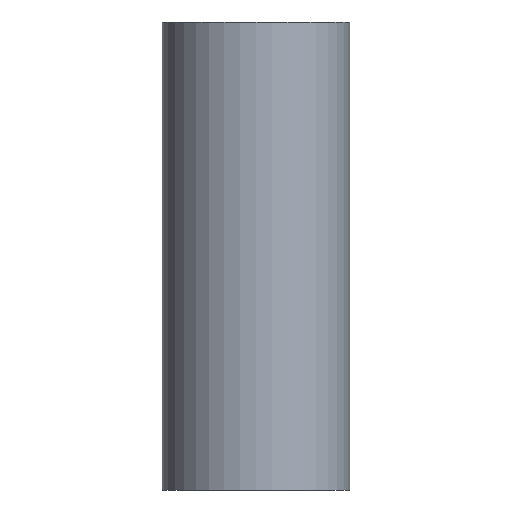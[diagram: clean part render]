
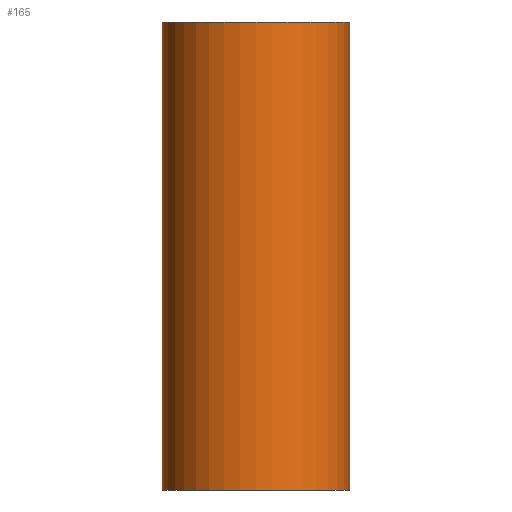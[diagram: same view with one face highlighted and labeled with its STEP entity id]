
A CAD part, front view. The second image highlights one B-rep face of the part: STEP entity #165.
In plain terms, the highlighted cylindrical face has radius 6 mm (diameter 12 mm), a partial arc.
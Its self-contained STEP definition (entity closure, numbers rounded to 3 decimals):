
#5 = CARTESIAN_POINT ( 'NONE',  ( 6., 0., 0. ) ) ;
#6 = CARTESIAN_POINT ( 'NONE',  ( 0., 0., 30. ) ) ;
#8 = ORIENTED_EDGE ( 'NONE', *, *, #94, .T. ) ;
#10 = VERTEX_POINT ( 'NONE', #199 ) ;
#12 = CARTESIAN_POINT ( 'NONE',  ( -6., 0., 0. ) ) ;
#14 = ORIENTED_EDGE ( 'NONE', *, *, #138, .F. ) ;
#24 = DIRECTION ( 'NONE',  ( 0., 0., -1. ) ) ;
#28 = VERTEX_POINT ( 'NONE', #61 ) ;
#52 = CIRCLE ( 'NONE', #153, 6. ) ;
#58 = LINE ( 'NONE', #184, #60 ) ;
#60 = VECTOR ( 'NONE', #181, 1000. ) ;
#61 = CARTESIAN_POINT ( 'NONE',  ( 6., 0., 30. ) ) ;
#62 = VECTOR ( 'NONE', #87, 1000. ) ;
#63 = AXIS2_PLACEMENT_3D ( 'NONE', #82, #136, #76 ) ;
#74 = DIRECTION ( 'NONE',  ( 1., 0., 0. ) ) ;
#76 = DIRECTION ( 'NONE',  ( 1., 0., 0. ) ) ;
#82 = CARTESIAN_POINT ( 'NONE',  ( 0., 0., 30. ) ) ;
#87 = DIRECTION ( 'NONE',  ( 0., 0., -1. ) ) ;
#90 = EDGE_LOOP ( 'NONE', ( #141, #14, #110, #8 ) ) ;
#94 = EDGE_CURVE ( 'NONE', #171, #167, #52, .T. ) ;
#105 = FACE_OUTER_BOUND ( 'NONE', #90, .T. ) ;
#110 = ORIENTED_EDGE ( 'NONE', *, *, #137, .T. ) ;
#115 = CIRCLE ( 'NONE', #63, 6. ) ;
#118 = AXIS2_PLACEMENT_3D ( 'NONE', #6, #24, #172 ) ;
#126 = EDGE_CURVE ( 'NONE', #28, #167, #58, .T. ) ;
#129 = CYLINDRICAL_SURFACE ( 'NONE', #118, 6. ) ;
#136 = DIRECTION ( 'NONE',  ( 0., 0., 1. ) ) ;
#137 = EDGE_CURVE ( 'NONE', #10, #171, #178, .T. ) ;
#138 = EDGE_CURVE ( 'NONE', #10, #28, #115, .T. ) ;
#141 = ORIENTED_EDGE ( 'NONE', *, *, #126, .F. ) ;
#153 = AXIS2_PLACEMENT_3D ( 'NONE', #170, #193, #74 ) ;
#154 = CARTESIAN_POINT ( 'NONE',  ( -6., 0., 30. ) ) ;
#165 = ADVANCED_FACE ( 'NONE', ( #105 ), #129, .T. ) ;
#167 = VERTEX_POINT ( 'NONE', #5 ) ;
#170 = CARTESIAN_POINT ( 'NONE',  ( 0., 0., 0. ) ) ;
#171 = VERTEX_POINT ( 'NONE', #12 ) ;
#172 = DIRECTION ( 'NONE',  ( -1., 0., 0. ) ) ;
#178 = LINE ( 'NONE', #154, #62 ) ;
#181 = DIRECTION ( 'NONE',  ( 0., 0., -1. ) ) ;
#184 = CARTESIAN_POINT ( 'NONE',  ( 6., 0., 30. ) ) ;
#193 = DIRECTION ( 'NONE',  ( 0., 0., 1. ) ) ;
#199 = CARTESIAN_POINT ( 'NONE',  ( -6., 0., 30. ) ) ;
